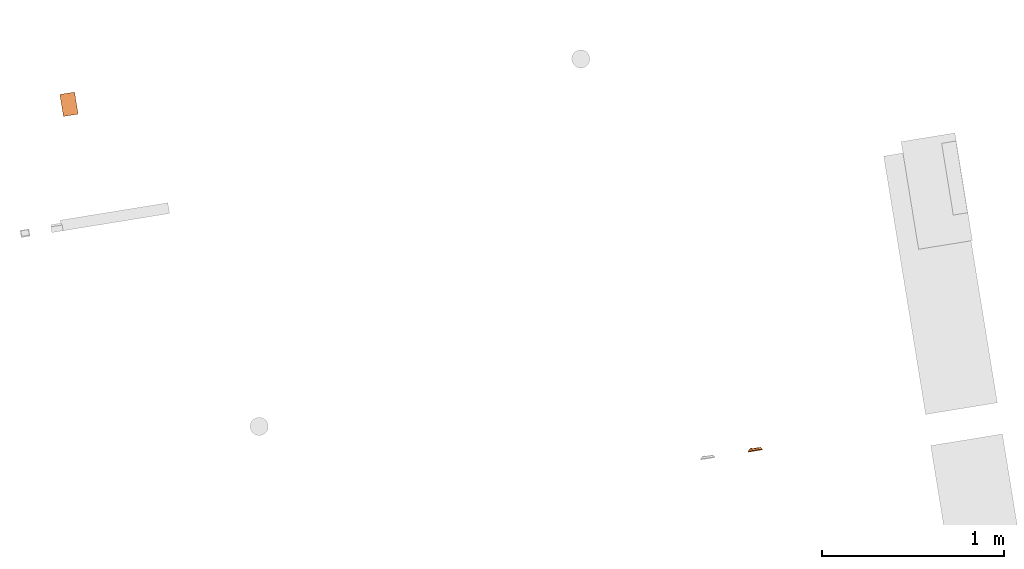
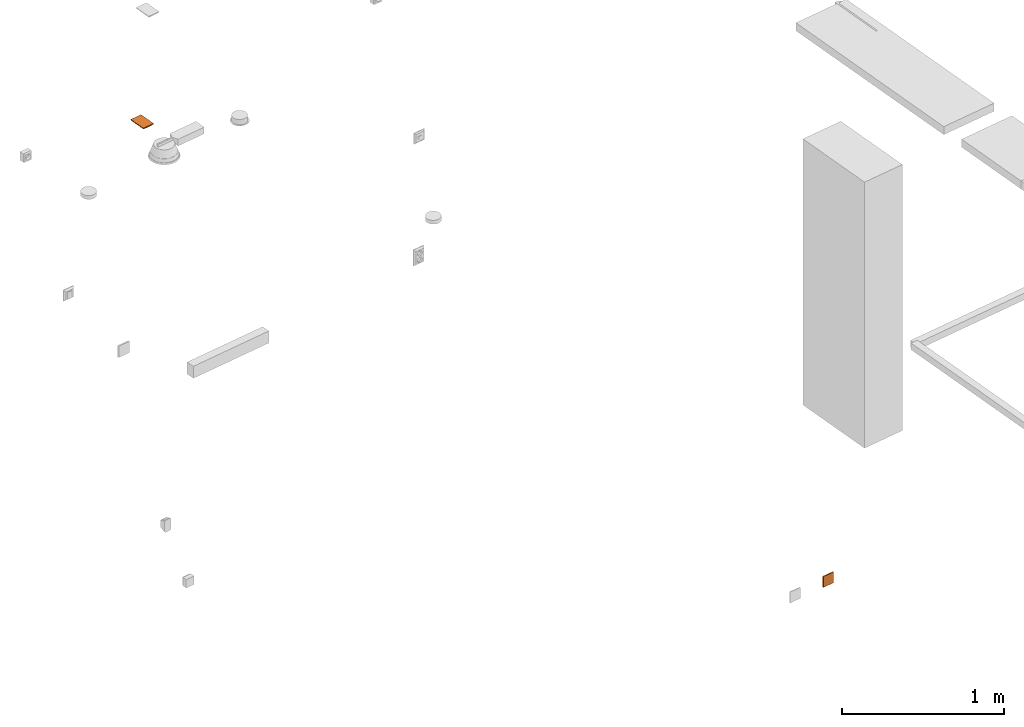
# One storey, part 14 of 20: 2 proxies.
"""IFC2X3 building model written with IfcOpenShell, lengths in millimetres."""

from ifc_helpers import new_model, entity, si_unit, converted_unit, derived_unit, direction, frame, frame_2d, origin, origin_with_axes, origin_2d_with_axis, place, context, subcontext, project, spatial, polyline, rectangle, circle, outline, extrude, faceted_brep, source, transform, mapped, material, type_object, element, save


model = new_model("IFC2X3")

# Units and contexts
model_context = context("Model", 3, precision=0.01, world=origin(), true_north=direction((6.12323399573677e-17, 1.0)))
plan_context = context("Plan", 3, precision=1e-05, world=origin_with_axes())
body_context = subcontext(model_context, "Body", "Model", "MODEL_VIEW")
ifc_project = project(units=[converted_unit("PLANEANGLEUNIT", "DEGREE", entity("IfcPositiveLengthMeasure", 0.0174532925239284), si_unit("PLANEANGLEUNIT", "RADIAN"), dimensions=[0, 0, 0, 0, 0, 0, 0]), si_unit("AREAUNIT", "SQUARE_METRE"), si_unit("LENGTHUNIT", "METRE", prefix="MILLI"), si_unit("MASSUNIT", "GRAM", prefix="KILO"), si_unit("POWERUNIT", "WATT"), si_unit("PRESSUREUNIT", "PASCAL", prefix="KILO"), si_unit("FORCEUNIT", "NEWTON", prefix="KILO"), si_unit("ELECTRICVOLTAGEUNIT", "VOLT"), si_unit("ELECTRICCURRENTUNIT", "AMPERE"), si_unit("THERMODYNAMICTEMPERATUREUNIT", "DEGREE_CELSIUS"), si_unit("TIMEUNIT", "SECOND"), si_unit("VOLUMEUNIT", "CUBIC_METRE"), derived_unit("LINEARVELOCITYUNIT", [(si_unit("LENGTHUNIT", "METRE"), 1), (si_unit("TIMEUNIT", "SECOND"), -1)]), derived_unit("VOLUMETRICFLOWRATEUNIT", [(si_unit("VOLUMEUNIT", "CUBIC_METRE"), 1), (si_unit("TIMEUNIT", "SECOND"), -1)]), derived_unit("THERMALTRANSMITTANCEUNIT", [(si_unit("POWERUNIT", "WATT"), 1), (si_unit("THERMODYNAMICTEMPERATUREUNIT", "KELVIN"), -1), (si_unit("AREAUNIT", "SQUARE_METRE"), -1)]), derived_unit("SOUNDPRESSUREUNIT", [(si_unit("PRESSUREUNIT", "PASCAL"), 1)])], contexts=[model_context, plan_context])

# Site, building, storey
site_placement = place(None, frame((-0.219946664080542, 0.12226179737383, 0.0), z_axis=(0.0, 0.0, 1.0), x_axis=(-0.160236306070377, 0.987078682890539, 0.0)))
site = spatial("IfcSite", under=ifc_project, at=site_placement, Name="Default", CompositionType="ELEMENT")
building_placement = place(site_placement, origin_with_axes())
building = spatial("IfcBuilding", under=site, at=building_placement, CompositionType="ELEMENT")
storey_placement = place(building_placement, frame((0.0, 0.0, 50999.9999999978), z_axis=(0.0, 0.0, 1.0), x_axis=(1.0, 0.0, 0.0)))
storey = spatial("IfcBuildingStorey", under=building, at=storey_placement, Name="Nivå D", CompositionType="ELEMENT", Elevation=50999.9999999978)

# Proxies
ifc_material = material(Name="<Unnamed>")
building_element_proxy_type_1 = type_object("IfcBuildingElementProxyType", Name="Dobbel stikk i tak m_boks 2P+J PH:Earthed reces socket c2", PredefinedType="NOTDEFINED", material=ifc_material)
shared_shape_1 = source(origin(), body_context, "Body", "Brep", [
    faceted_brep([(25.250000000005, -18.3000000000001, -17.8944271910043), (25.250000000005, -18.5954451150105, -17.489897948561), (25.250000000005, -18.7000000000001, -17.0), (25.250000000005, -18.7000000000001, -5.0), (25.250000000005, -19.5000000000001, -5.0), (25.250000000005, -19.5000000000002, -17.0), (25.250000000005, -18.9142135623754, -18.4142135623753), (25.250000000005, -17.5000000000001, -19.0), (25.250000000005, -17.5000000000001, -11.0), (25.250000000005, -18.3000000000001, -11.0), (24.250000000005, -19.5000000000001, -5.0), (24.250000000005, -18.7000000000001, -5.0), (24.250000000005, -18.7000000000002, -17.0), (24.250000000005, -18.5954451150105, -17.489897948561), (24.250000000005, -18.3000000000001, -17.8944271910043), (24.250000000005, -18.3000000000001, -11.0), (24.250000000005, -17.5000000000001, -11.0), (24.250000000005, -17.5000000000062, -19.0), (24.250000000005, -18.9142135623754, -18.4142135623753), (24.250000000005, -19.5000000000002, -17.0)], [[[0, 1, 2, 3, 4, 5, 6, 7, 8, 9]], [[10, 11, 12, 13, 14, 15, 16, 17, 18, 19]], [[11, 10, 4, 3]], [[12, 11, 3, 2]], [[2, 1, 13, 12]], [[0, 14, 13, 1]], [[15, 14, 0, 9]], [[16, 15, 9, 8]], [[17, 16, 8, 7]], [[17, 7, 6, 18]], [[6, 5, 19, 18]], [[10, 19, 5, 4]]]),
    faceted_brep([(24.250000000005, 18.3000000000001, -17.8944271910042), (24.250000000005, 18.5954451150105, -17.4898979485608), (24.250000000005, 18.7000000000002, -17.0), (24.250000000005, 18.7000000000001, -5.0), (24.250000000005, 19.5000000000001, -5.0), (24.250000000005, 19.5000000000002, -17.0), (24.250000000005, 18.9142135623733, -18.4142135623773), (24.250000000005, 17.5000000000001, -19.0), (24.250000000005, 17.5000000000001, -11.0), (24.250000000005, 18.3000000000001, -11.0), (25.250000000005, 19.5000000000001, -5.0), (25.250000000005, 18.7000000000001, -5.0), (25.250000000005, 18.7000000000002, -17.0), (25.250000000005, 18.5954451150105, -17.4898979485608), (25.250000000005, 18.3000000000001, -17.8944271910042), (25.250000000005, 18.3000000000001, -11.0), (25.250000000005, 17.5000000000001, -11.0), (25.250000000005, 17.5000000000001, -19.0), (25.250000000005, 18.9142135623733, -18.4142135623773), (25.250000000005, 19.5000000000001, -17.0)], [[[0, 1, 2, 3, 4, 5, 6, 7, 8, 9]], [[10, 11, 12, 13, 14, 15, 16, 17, 18, 19]], [[9, 8, 16, 15]], [[0, 9, 15, 14]], [[14, 13, 1, 0]], [[12, 2, 1, 13]], [[3, 2, 12, 11]], [[4, 3, 11, 10]], [[5, 4, 10, 19]], [[5, 19, 18, 6]], [[18, 17, 7, 6]], [[8, 7, 17, 16]]]),
    faceted_brep([(-25.249999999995, 18.9142135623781, -18.4142135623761), (-25.249999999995, 19.5000000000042, -17.0), (-25.249999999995, 19.5000000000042, -5.0), (-25.249999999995, 18.7000000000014, -5.0), (-25.249999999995, 18.7000000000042, -17.0), (-25.249999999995, 18.5954451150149, -17.4898979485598), (-25.249999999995, 18.3000000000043, -17.8944271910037), (-25.249999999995, 18.3000000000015, -11.0), (-25.249999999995, 17.5000000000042, -11.0), (-25.249999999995, 17.5000000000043, -19.0), (-26.249999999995, 19.5000000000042, -5.0), (-26.249999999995, 19.5000000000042, -17.0), (-26.249999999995, 18.9142135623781, -18.4142135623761), (-26.249999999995, 17.5000000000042, -19.0), (-26.249999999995, 17.5000000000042, -11.0), (-26.249999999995, 18.3000000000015, -11.0), (-26.249999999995, 18.3000000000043, -17.8944271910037), (-26.249999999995, 18.5954451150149, -17.4898979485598), (-26.249999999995, 18.7000000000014, -17.0), (-26.249999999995, 18.7000000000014, -5.0)], [[[0, 1, 2, 3, 4, 5, 6, 7, 8, 9]], [[10, 11, 12, 13, 14, 15, 16, 17, 18, 19]], [[11, 10, 2, 1]], [[11, 1, 0, 12]], [[0, 9, 13, 12]], [[14, 13, 9, 8]], [[16, 15, 7, 6]], [[6, 5, 17, 16]], [[4, 18, 17, 5]], [[19, 18, 4, 3]], [[10, 19, 3, 2]], [[15, 14, 8, 7]]]),
    faceted_brep([(-25.249999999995, -17.4999999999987, -19.0), (-25.249999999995, -17.4999999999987, -5.0), (-25.249999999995, -18.2999999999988, -5.0), (-25.249999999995, -18.2999999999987, -17.8944271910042), (-25.249999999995, -18.5954451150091, -17.4898979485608), (-25.249999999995, -18.6999999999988, -17.0), (-25.249999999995, -18.6999999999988, -11.0), (-25.249999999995, -19.4999999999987, -11.0), (-25.249999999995, -19.4999999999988, -17.0), (-25.249999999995, -18.9142135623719, -18.4142135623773), (-26.249999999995, -17.4999999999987, -5.0), (-26.249999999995, -17.4999999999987, -19.0), (-26.249999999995, -18.9142135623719, -18.4142135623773), (-26.249999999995, -19.4999999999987, -17.0), (-26.249999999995, -19.4999999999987, -11.0), (-26.249999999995, -18.6999999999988, -11.0), (-26.249999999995, -18.6999999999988, -17.0), (-26.249999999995, -18.5954451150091, -17.4898979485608), (-26.249999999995, -18.2999999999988, -17.8944271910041), (-26.249999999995, -18.2999999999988, -5.0)], [[[0, 1, 2, 3, 4, 5, 6, 7, 8, 9]], [[10, 11, 12, 13, 14, 15, 16, 17, 18, 19]], [[11, 10, 1, 0]], [[0, 9, 12, 11]], [[12, 9, 8, 13]], [[14, 13, 8, 7]], [[15, 14, 7, 6]], [[16, 15, 6, 5]], [[4, 17, 16, 5]], [[3, 18, 17, 4]], [[19, 18, 3, 2]], [[10, 19, 2, 1]]]),
    faceted_brep([(15.7500000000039, -2.5, -5.0), (16.3750000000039, -1.875, -5.0), (17.0, -1.25, -5.0), (17.6250000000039, -0.625000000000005, -5.0), (18.2500000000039, 0.0, -5.0), (17.7008289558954, 0.54917104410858, -5.0), (17.0, 1.25, -5.0), (16.375000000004, 1.875, -5.0), (15.750000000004, 2.5, -5.0), (15.125000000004, 1.87500000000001, -5.0), (14.500000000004, 1.25000000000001, -5.0), (13.8750000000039, 0.625000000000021, -5.0), (13.2500000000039, 0.0, -5.0), (13.7991710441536, -0.549171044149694, -5.0), (14.5000000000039, -1.25, -5.0), (15.1250000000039, -1.875, -5.0), (17.7008289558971, -0.549171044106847, -5.20000000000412), (17.1516579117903, -1.09834208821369, -5.20000000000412), (16.4508289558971, -1.79917104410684, -5.20000000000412), (15.7500000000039, -2.5, -5.20000000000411), (15.1250000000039, -1.875, -5.20000000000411), (14.5000000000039, -1.25, -5.20000000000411), (13.8750000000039, -0.625, -5.20000000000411), (13.2500000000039, 0.0, -5.2000000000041), (13.7991710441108, 0.54917104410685, -5.20000000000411), (14.3483420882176, 1.09834208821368, -5.20000000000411), (15.0491710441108, 1.79917104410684, -5.20000000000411), (15.750000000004, 2.5, -5.20000000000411), (16.375000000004, 1.875, -5.20000000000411), (17.0, 1.25, -5.20000000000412), (17.6250000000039, 0.624999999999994, -5.20000000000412), (18.2500000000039, 0.0, -5.20000000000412)], [[[0, 1, 2, 3, 4, 5, 6, 7, 8, 9, 10, 11, 12, 13, 14, 15]], [[16, 17, 18, 19, 20, 21, 22, 23, 24, 25, 26, 27, 28, 29, 30, 31]], [[29, 28, 27, 8, 7, 6, 5, 4, 31, 30]], [[8, 27, 26, 25, 24, 23, 12, 11, 10, 9]], [[21, 20, 19, 0, 15, 14, 13, 12, 23, 22]], [[0, 19, 18, 17, 16, 31, 4, 3, 2, 1]]]),
    faceted_brep([(35.0491710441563, -1.79917104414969, -5.20000000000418), (34.348342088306, -1.09834208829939, -5.20000000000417), (33.7991710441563, -0.549171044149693, -5.20000000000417), (33.2500000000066, 0.0, -5.20000000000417), (33.8750000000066, 0.625000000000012, -5.20000000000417), (34.5000000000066, 1.25000000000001, -5.20000000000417), (35.1250000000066, 1.875, -5.20000000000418), (35.7500000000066, 2.5, -5.20000000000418), (36.450828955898, 1.79917104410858, -5.20000000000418), (37.1516579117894, 1.09834208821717, -5.20000000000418), (37.700828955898, 0.54917104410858, -5.20000000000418), (38.2500000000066, 0.0, -5.20000000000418), (37.6250000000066, -0.625000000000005, -5.20000000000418), (37.0, -1.25, -5.20000000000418), (36.3750000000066, -1.875, -5.20000000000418), (35.7500000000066, -2.5, -5.20000000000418), (35.1250000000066, 1.87500000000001, -5.0), (34.5000000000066, 1.25000000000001, -5.0), (33.7991710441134, 0.549171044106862, -5.0), (33.2500000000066, 0.0, -5.0), (33.8750000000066, -0.625, -5.0), (34.5000000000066, -1.25, -5.0), (35.1250000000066, -1.875, -5.0), (35.7500000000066, -2.5, -5.0), (36.3750000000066, -1.875, -5.0), (37.0, -1.25, -5.0), (37.7008289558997, -0.549171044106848, -5.0), (38.2500000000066, 0.0, -5.0), (37.6250000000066, 0.624999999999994, -5.0), (37.0, 1.25, -5.0), (36.3750000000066, 1.875, -5.0), (35.7500000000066, 2.5, -5.0)], [[[0, 1, 2, 3, 4, 5, 6, 7, 8, 9, 10, 11, 12, 13, 14, 15]], [[16, 17, 18, 19, 20, 21, 22, 23, 24, 25, 26, 27, 28, 29, 30, 31]], [[30, 29, 28, 27, 11, 10, 9, 8, 7, 31]], [[31, 7, 6, 5, 4, 3, 19, 18, 17, 16]], [[22, 21, 20, 19, 3, 2, 1, 0, 15, 23]], [[23, 15, 14, 13, 12, 11, 27, 26, 25, 24]]]),
    faceted_brep([(-36.3749999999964, 1.87500000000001, -5.0), (-37.0, 1.25000000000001, -5.0), (-37.6249999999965, 0.625000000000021, -5.0), (-38.2499999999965, 0.0, -5.0), (-37.7008289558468, -0.549171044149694, -5.0), (-37.0, -1.25, -5.0), (-36.3749999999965, -1.875, -5.0), (-35.7499999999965, -2.5, -5.0), (-35.1249999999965, -1.875, -5.0), (-34.4999999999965, -1.25, -5.0), (-33.8749999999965, -0.625000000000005, -5.0), (-33.2499999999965, 0.0, -5.0), (-33.799171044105, 0.54917104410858, -5.0), (-34.4999999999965, 1.25, -5.0), (-35.1249999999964, 1.875, -5.0), (-35.7499999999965, 2.5, -5.0), (-36.3749999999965, -1.875, -5.20000000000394), (-37.0, -1.25, -5.20000000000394), (-37.6249999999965, -0.625, -5.20000000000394), (-38.2499999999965, 0.0, -5.20000000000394), (-37.7008289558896, 0.54917104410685, -5.20000000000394), (-37.1516579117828, 1.09834208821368, -5.20000000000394), (-36.4508289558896, 1.79917104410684, -5.20000000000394), (-35.7499999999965, 2.5, -5.20000000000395), (-35.1249999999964, 1.875, -5.20000000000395), (-34.4999999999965, 1.25, -5.20000000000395), (-33.8749999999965, 0.624999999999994, -5.20000000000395), (-33.2499999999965, 0.0, -5.20000000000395), (-33.7991710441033, -0.549171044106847, -5.20000000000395), (-34.3483420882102, -1.09834208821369, -5.20000000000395), (-35.0491710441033, -1.79917104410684, -5.20000000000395), (-35.7499999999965, -2.5, -5.20000000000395)], [[[0, 1, 2, 3, 4, 5, 6, 7, 8, 9, 10, 11, 12, 13, 14, 15]], [[16, 17, 18, 19, 20, 21, 22, 23, 24, 25, 26, 27, 28, 29, 30, 31]], [[25, 24, 23, 15, 14, 13, 12, 11, 27, 26]], [[15, 23, 22, 21, 20, 19, 3, 2, 1, 0]], [[17, 16, 31, 7, 6, 5, 4, 3, 19, 18]], [[7, 31, 30, 29, 28, 27, 11, 10, 9, 8]]]),
    faceted_brep([(-16.4508289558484, -1.79917104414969, -5.20000000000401), (-17.1516579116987, -1.09834208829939, -5.20000000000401), (-17.7008289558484, -0.549171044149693, -5.200000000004), (-18.2499999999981, 0.0, -5.200000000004), (-17.6249999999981, 0.625000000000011, -5.200000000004), (-17.0, 1.25000000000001, -5.20000000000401), (-16.3749999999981, 1.875, -5.20000000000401), (-15.7499999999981, 2.5, -5.20000000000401), (-15.0491710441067, 1.79917104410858, -5.20000000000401), (-14.3483420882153, 1.09834208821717, -5.20000000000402), (-13.7991710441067, 0.549171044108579, -5.20000000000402), (-13.2499999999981, 0.0, -5.20000000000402), (-13.8749999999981, -0.625000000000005, -5.20000000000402), (-14.4999999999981, -1.25, -5.20000000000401), (-15.1249999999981, -1.875, -5.20000000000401), (-15.7499999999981, -2.5, -5.20000000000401), (-16.3749999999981, 1.87500000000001, -5.0), (-17.0, 1.25000000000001, -5.0), (-17.7008289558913, 0.549171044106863, -5.0), (-18.2499999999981, 0.0, -5.0), (-17.6249999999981, -0.625, -5.0), (-17.0, -1.25, -5.0), (-16.3749999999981, -1.875, -5.0), (-15.7499999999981, -2.5, -5.0), (-15.1249999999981, -1.875, -5.0), (-14.4999999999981, -1.25, -5.0), (-13.799171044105, -0.549171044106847, -5.0), (-13.2499999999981, 0.0, -5.0), (-13.8749999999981, 0.624999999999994, -5.0), (-14.4999999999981, 1.25, -5.0), (-15.1249999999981, 1.875, -5.0), (-15.7499999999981, 2.5, -5.0)], [[[0, 1, 2, 3, 4, 5, 6, 7, 8, 9, 10, 11, 12, 13, 14, 15]], [[16, 17, 18, 19, 20, 21, 22, 23, 24, 25, 26, 27, 28, 29, 30, 31]], [[30, 29, 28, 27, 11, 10, 9, 8, 7, 31]], [[31, 7, 6, 5, 4, 3, 19, 18, 17, 16]], [[22, 21, 20, 19, 3, 2, 1, 0, 15, 23]], [[23, 15, 14, 13, 12, 11, 27, 26, 25, 24]]]),
    faceted_brep([(-51.5000000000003, -31.0, -17.0), (-35.7500000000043, -17.3205080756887, -17.0), (-30.9263809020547, -19.3185165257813, -17.0), (-39.8921356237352, -14.1421356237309, -17.0), (-25.750000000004, -20.0, -17.0), (-20.5736190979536, -19.3185165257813, -17.0), (20.5736190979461, -19.3185165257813, -17.0), (-43.070508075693, -10.0, -17.0), (-45.0685165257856, -5.1763809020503, -17.0), (-45.7500000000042, 0.0, -17.0), (51.5000000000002, -31.0, -17.0), (-51.5000000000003, 31.0, -17.0), (-45.0685165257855, 5.17638090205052, -17.0), (-43.0705080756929, 10.0, -17.0), (-39.892135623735, 14.142135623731, -17.0), (-35.7500000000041, 17.3205080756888, -17.0), (-30.9263809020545, 19.3185165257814, -17.0), (-25.7500000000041, 20.0, -17.0), (-20.5736190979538, 19.3185165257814, -17.0), (20.5736190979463, 19.3185165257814, -17.0), (51.5000000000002, 31.0, -17.0), (25.7499999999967, 20.0, -17.0), (30.926380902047, 19.3185165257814, -17.0), (35.7499999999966, 17.3205080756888, -17.0), (39.8921356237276, 14.142135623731, -17.0), (43.0705080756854, 10.0, -17.0), (45.068516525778, 5.1763809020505, -17.0), (45.7499999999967, 0.0, -17.0), (25.7499999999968, -20.0, -17.0), (30.9263809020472, -19.3185165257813, -17.0), (35.7499999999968, -17.3205080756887, -17.0), (39.8921356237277, -14.1421356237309, -17.0), (43.0705080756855, -10.0, -17.0), (45.0685165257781, -5.17638090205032, -17.0), (15.7499999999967, 17.3205080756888, -17.0), (-15.7500000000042, 17.3205080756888, -17.0), (11.6078643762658, 14.142135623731, -17.0), (-11.6078643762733, 14.142135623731, -17.0), (8.42949192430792, 10.0, -17.0), (-8.42949192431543, 10.0, -17.0), (6.4314834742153, 5.17638090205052, -17.0), (-6.43148347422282, 5.1763809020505, -17.0), (-5.75000000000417, 0.0, -17.0), (5.74999999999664, 0.0, -17.0), (6.43148347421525, -5.1763809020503, -17.0), (-6.43148347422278, -5.17638090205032, -17.0), (-8.42949192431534, -10.0, -17.0), (8.42949192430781, -10.0, -17.0), (-11.6078643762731, -14.1421356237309, -17.0), (11.6078643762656, -14.1421356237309, -17.0), (-15.7500000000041, -17.3205080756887, -17.0), (15.7499999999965, -17.3205080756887, -17.0), (61.5000000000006, -41.0, -5.0), (35.7499999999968, -17.3205080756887, -5.0), (30.9263809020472, -19.3185165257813, -5.0), (39.8921356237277, -14.1421356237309, -5.0), (25.7499999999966, -20.0, -5.0), (20.5736190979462, -19.3185165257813, -5.0), (-20.5736190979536, -19.3185165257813, -5.0), (43.0705080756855, -10.0, -5.0), (45.0685165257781, -5.17638090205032, -5.0), (45.7499999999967, 0.0, -5.0), (-61.5000000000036, -41.0, -5.0), (61.5000000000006, 41.0, -5.0), (45.068516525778, 5.1763809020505, -5.0), (43.0705080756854, 10.0, -5.0), (39.8921356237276, 14.142135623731, -5.0), (35.7499999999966, 17.3205080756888, -5.0), (30.9263809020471, 19.3185165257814, -5.0), (25.7499999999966, 20.0, -5.0), (20.5736190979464, 19.3185165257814, -5.0), (-20.5736190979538, 19.3185165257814, -5.0), (-61.5000000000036, 41.0, -5.0), (-25.7500000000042, 20.0, -5.0), (-30.9263809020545, 19.3185165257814, -5.0), (-35.750000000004, 17.3205080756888, -5.0), (-39.892135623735, 14.142135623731, -5.0), (-43.0705080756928, 10.0, -5.0), (-45.0685165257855, 5.17638090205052, -5.0), (-45.7500000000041, 0.0, -5.0), (-25.7500000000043, -20.0, -5.0), (-30.9263809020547, -19.3185165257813, -5.0), (-35.7500000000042, -17.3205080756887, -5.0), (-39.8921356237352, -14.1421356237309, -5.0), (-43.070508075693, -10.0, -5.0), (-45.0685165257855, -5.1763809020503, -5.0), (-15.7500000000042, 17.3205080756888, -5.0), (15.7499999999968, 17.3205080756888, -5.0), (-11.6078643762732, 14.142135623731, -5.0), (11.6078643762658, 14.142135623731, -5.0), (-8.4294919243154, 10.0, -5.0), (8.42949192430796, 10.0, -5.0), (-6.43148347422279, 5.1763809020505, -5.0), (6.43148347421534, 5.17638090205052, -5.0), (5.74999999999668, 0.0, -5.0), (-5.75000000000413, 0.0, -5.0), (-6.43148347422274, -5.17638090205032, -5.0), (6.43148347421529, -5.1763809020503, -5.0), (8.42949192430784, -10.0, -5.0), (-8.4294919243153, -10.0, -5.0), (11.6078643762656, -14.1421356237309, -5.0), (-11.6078643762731, -14.1421356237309, -5.0), (15.7499999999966, -17.3205080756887, -5.0), (-15.750000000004, -17.3205080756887, -5.0)], [[[0, 1, 2]], [[1, 0, 3]], [[0, 2, 4]], [[4, 5, 0]], [[0, 5, 6]], [[7, 3, 0]], [[8, 7, 0]], [[0, 9, 8]], [[6, 10, 0]], [[9, 0, 11]], [[12, 9, 11]], [[13, 12, 11]], [[11, 14, 13]], [[14, 11, 15]], [[15, 11, 16]], [[17, 16, 11]], [[18, 17, 11]], [[11, 19, 18]], [[19, 11, 20]], [[21, 19, 20]], [[20, 22, 21]], [[22, 20, 23]], [[24, 23, 20]], [[24, 20, 25]], [[26, 25, 20]], [[27, 26, 20]], [[27, 20, 10]], [[6, 28, 10]], [[29, 10, 28]], [[10, 29, 30]], [[10, 30, 31]], [[31, 32, 10]], [[32, 33, 10]], [[10, 33, 27]], [[19, 34, 18]], [[35, 18, 34]], [[36, 35, 34]], [[37, 35, 36]], [[36, 38, 37]], [[39, 37, 38]], [[38, 40, 39]], [[41, 39, 40]], [[40, 42, 41]], [[42, 40, 43]], [[43, 44, 42]], [[45, 42, 44]], [[46, 45, 44]], [[44, 47, 46]], [[48, 46, 47]], [[47, 49, 48]], [[50, 48, 49]], [[51, 50, 49]], [[5, 50, 51]], [[51, 6, 5]], [[52, 53, 54]], [[53, 52, 55]], [[52, 54, 56]], [[56, 57, 52]], [[52, 57, 58]], [[59, 55, 52]], [[60, 59, 52]], [[52, 61, 60]], [[58, 62, 52]], [[61, 52, 63]], [[64, 61, 63]], [[65, 64, 63]], [[63, 66, 65]], [[66, 63, 67]], [[67, 63, 68]], [[69, 68, 63]], [[70, 69, 63]], [[70, 63, 71]], [[63, 72, 71]], [[73, 71, 72]], [[72, 74, 73]], [[74, 72, 75]], [[76, 75, 72]], [[76, 72, 77]], [[78, 77, 72]], [[79, 78, 72]], [[79, 72, 62]], [[58, 80, 62]], [[81, 62, 80]], [[62, 81, 82]], [[62, 82, 83]], [[83, 84, 62]], [[84, 85, 62]], [[62, 85, 79]], [[86, 70, 71]], [[86, 87, 70]], [[88, 87, 86]], [[89, 87, 88]], [[88, 90, 89]], [[91, 89, 90]], [[90, 92, 91]], [[93, 91, 92]], [[92, 94, 93]], [[94, 92, 95]], [[95, 96, 94]], [[97, 94, 96]], [[98, 97, 96]], [[96, 99, 98]], [[100, 98, 99]], [[99, 101, 100]], [[102, 100, 101]], [[103, 102, 101]], [[103, 57, 102]], [[58, 57, 103]], [[20, 63, 52, 10]], [[11, 72, 63, 20]], [[0, 62, 72, 11]], [[10, 52, 62, 0]], [[73, 17, 18, 71]], [[71, 18, 35, 86]], [[90, 88, 37, 39]], [[37, 88, 86, 35]], [[92, 90, 39, 41]], [[92, 41, 42, 95]], [[95, 42, 45, 96]], [[96, 45, 46, 99]], [[103, 101, 48, 50]], [[48, 101, 99, 46]], [[58, 103, 50, 5]], [[58, 5, 4, 80]], [[80, 4, 2, 81]], [[81, 2, 1, 82]], [[84, 83, 3, 7]], [[3, 83, 82, 1]], [[85, 84, 7, 8]], [[85, 8, 9, 79]], [[79, 9, 12, 78]], [[78, 12, 13, 77]], [[75, 76, 14, 15]], [[14, 76, 77, 13]], [[74, 75, 15, 16]], [[74, 16, 17, 73]], [[69, 21, 22, 68]], [[68, 22, 23, 67]], [[65, 66, 24, 25]], [[23, 24, 66, 67]], [[64, 65, 25, 26]], [[27, 61, 64, 26]], [[60, 33, 32, 59]], [[59, 32, 31, 55]], [[54, 53, 30, 29]], [[31, 30, 53, 55]], [[56, 54, 29, 28]], [[60, 61, 27, 33]], [[56, 28, 6, 57]], [[57, 6, 51, 102]], [[98, 100, 49, 47]], [[51, 49, 100, 102]], [[97, 98, 47, 44]], [[43, 94, 97, 44]], [[93, 40, 38, 91]], [[91, 38, 36, 89]], [[70, 87, 34, 19]], [[36, 34, 87, 89]], [[69, 70, 19, 21]], [[93, 94, 43, 40]]]),
    faceted_brep([(61.5000000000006, -41.0, 0.0), (61.5000000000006, 41.0, 0.0), (-61.5000000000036, 41.0, 0.0), (-61.5000000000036, -41.0, 0.0), (61.5000000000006, -41.0, -5.0), (-61.5000000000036, -41.0, -5.0), (-61.5000000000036, 41.0, -5.0), (61.5000000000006, 41.0, -5.0)], [[[0, 1, 2, 3]], [[4, 5, 6, 7]], [[1, 0, 4, 7]], [[2, 1, 7, 6]], [[3, 2, 6, 5]], [[0, 3, 5, 4]]]),
])
proxy_1_placement = place(storey_placement, frame((778154.646606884, -589622.481738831, 3610.0000000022), z_axis=(0.0, 0.0, 1.0), x_axis=(1.0, 0.0, 0.0)))
element("IfcBuildingElementProxy", 1, at=proxy_1_placement, inside=storey, type_object=building_element_proxy_type_1, material=ifc_material, Name="Dobbel stikk i tak m_boks 2P+J PH:Earthed reces socket c2", ObjectType="Dobbel stikk i tak m_boks 2P+J PH:Earthed reces socket c2", context=body_context, shape_type="MappedRepresentation", body=[
    mapped(shared_shape_1, transform((0.0, 0.0, 0.0), scale=1.0)),
])
building_element_proxy_type_2 = type_object("IfcBuildingElementProxyType", Name="Styrepanel_FC:Styrepanel-FC", PredefinedType="NOTDEFINED", material=ifc_material)
shared_shape_2 = source(origin(), body_context, "Body", "SweptSolid", [
    extrude(rectangle(XDim=0.200000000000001, YDim=9.99999999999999, at=frame_2d((2.22044604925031e-15, -2.25514051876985e-15), x_axis=(0.0, 1.0))), frame((21.0, -19.9768091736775, -9.77872704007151), z_axis=(0.0, 0.148340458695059, 0.988936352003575), x_axis=(-1.0, 0.0, 0.0)), (0.0, 0.0, 1.0), 20.0),
    extrude(rectangle(XDim=0.199999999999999, YDim=2.9750493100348, at=frame_2d((2.1094237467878e-15, 1.59594559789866e-16), x_axis=(0.0, 1.0))), frame((16.0, -18.493404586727, -9.88936352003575), z_axis=(1.0, 0.0, 0.0), x_axis=(0.0, 0.997230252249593, -0.0743762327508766)), (0.0, 0.0, 1.0), 9.99999999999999),
    extrude(outline(polyline([(-6.74042431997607, -0.988936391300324), (13.2595756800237, -0.988936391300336), (-6.5191513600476, 1.97787278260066), (-6.74042431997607, -0.988936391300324)])), frame((25.9, -17.9989363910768, -3.25957568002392), z_axis=(1.0, 0.0, 0.0), x_axis=(0.0, 0.0, 1.0)), (0.0, 0.0, 1.0), 0.200000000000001),
    extrude(outline(polyline([(-6.74042431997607, -0.988936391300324), (13.2595756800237, -0.988936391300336), (-6.5191513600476, 1.97787278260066), (-6.74042431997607, -0.988936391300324)])), frame((15.9, -17.9989363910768, -3.25957568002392), z_axis=(1.0, 0.0, 0.0), x_axis=(0.0, 0.0, 1.0)), (0.0, 0.0, 1.0), 0.199999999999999),
    extrude(rectangle(XDim=9.99999999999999, YDim=0.199999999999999, at=frame_2d((2.22044604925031e-15, 1.06165076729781e-15), x_axis=(1.0, 0.0))), frame((21.0, -17.0099999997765, -10.0), z_axis=(0.0, 0.0, 1.0), x_axis=(-1.0, 0.0, 0.0)), (0.0, 0.0, 1.0), 20.0),
    extrude(outline(polyline([(-29.4448637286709, -29.3938769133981), (-12.1243556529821, -29.3938769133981), (23.6713610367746, 21.2289111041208), (17.8978583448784, 37.5588427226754), (-29.4448637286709, -29.3938769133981)])), frame((36.0707106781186, -10.0707106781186, 0.0), z_axis=(-0.707106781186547, 0.707106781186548, 0.0), x_axis=(-0.577350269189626, -0.577350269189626, 0.577350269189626)), (0.0, 0.0, 1.0), 0.199999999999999),
    extrude(outline(polyline([(-41.0, -7.07106781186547), (41.0, -7.07106781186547), (31.0, 7.07106781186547), (-31.0, 7.07106781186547), (-41.0, -7.07106781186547)])), frame((-36.0707106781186, -10.0707106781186, 0.0), z_axis=(0.707106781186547, 0.707106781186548, 0.0), x_axis=(0.0, 0.0, 1.0)), (0.0, 0.0, 1.0), 0.200000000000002),
    extrude(outline(polyline([(12.1243556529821, -29.3938769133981), (29.4448637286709, -29.3938769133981), (-17.8978583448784, 37.5588427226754), (-23.6713610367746, 21.2289111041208), (12.1243556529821, -29.3938769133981)])), frame((0.0, -10.0707106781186, -36.0707106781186), z_axis=(0.0, 0.707106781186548, 0.707106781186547), x_axis=(0.577350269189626, 0.577350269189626, -0.577350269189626)), (0.0, 0.0, 1.0), 0.199999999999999),
    extrude(outline(polyline([(-31.0, -7.07106781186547), (31.0, -7.07106781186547), (41.0, 7.07106781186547), (-41.0, 7.07106781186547), (-31.0, -7.07106781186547)])), frame((0.0, -10.0707106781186, 36.0707106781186), z_axis=(0.0, 0.707106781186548, -0.707106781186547), x_axis=(-1.0, 0.0, 0.0)), (0.0, 0.0, 1.0), 0.199999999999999),
    extrude(rectangle(XDim=61.9999999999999, YDim=0.200000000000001, at=origin_2d_with_axis()), frame((0.0, -15.0, -31.0), z_axis=(0.0, 0.0, 1.0), x_axis=(-1.0, 0.0, 0.0)), (0.0, 0.0, 1.0), 61.9999999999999),
    extrude(circle(Radius=0.999999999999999, at=frame_2d((0.0, -1.05748743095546e-15), x_axis=(1.0, 0.0))), frame((-9.49999999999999, -17.1199999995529, 7.0), z_axis=(0.0, 1.0, 0.0), x_axis=(0.0, 0.0, 1.0)), (0.0, 0.0, 1.0), 0.199999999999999),
    extrude(circle(Radius=0.5, at=origin_2d_with_axis()), frame((-11.5, -17.1199999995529, 5.0), z_axis=(0.0, 1.0, 0.0), x_axis=(0.0, 0.0, 1.0)), (0.0, 0.0, 1.0), 0.199999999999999),
    extrude(circle(Radius=9.99999999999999, at=frame_2d((0.0, -1.48048240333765e-14), x_axis=(1.0, 0.0))), frame((-19.0, -17.1099999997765, 0.0), z_axis=(0.0, 1.0, 0.0), x_axis=(0.0, 0.0, 1.0)), (0.0, 0.0, 1.0), 0.199999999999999),
    extrude(rectangle(XDim=2.0, YDim=61.9999999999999, at=origin_2d_with_axis()), frame((0.0, -16.0, -31.0), z_axis=(0.0, 0.0, 1.0), x_axis=(0.0, -1.0, 0.0)), (0.0, 0.0, 1.0), 61.9999999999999),
    extrude(rectangle(XDim=4.99999999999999, YDim=81.9999999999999, at=origin_2d_with_axis()), frame((0.0, -2.5, -41.0), z_axis=(0.0, 0.0, 1.0), x_axis=(0.0, -1.0, 0.0)), (0.0, 0.0, 1.0), 81.9999999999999),
])
proxy_2_placement = place(storey_placement, frame((775665.119644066, -593045.270061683, 0.0), z_axis=(0.0, 0.0, 1.0), x_axis=(0.0, 1.0, 0.0)))
element("IfcBuildingElementProxy", 2, at=proxy_2_placement, inside=storey, type_object=building_element_proxy_type_2, material=ifc_material, Name="Styrepanel_FC:Styrepanel-FC", ObjectType="Styrepanel_FC:Styrepanel-FC", context=body_context, shape_type="MappedRepresentation", body=[
    mapped(shared_shape_2, transform((0.0, 0.0, 0.0), scale=1.0)),
])

save(model, "model.ifc")
